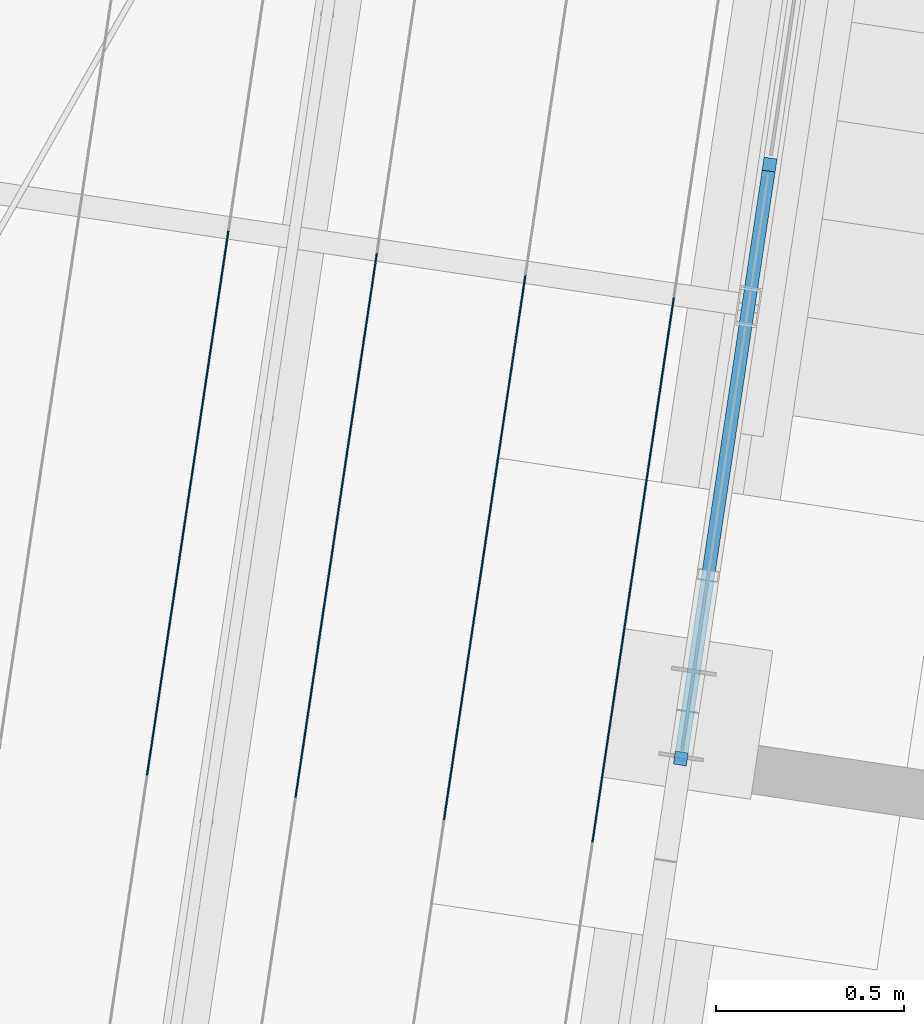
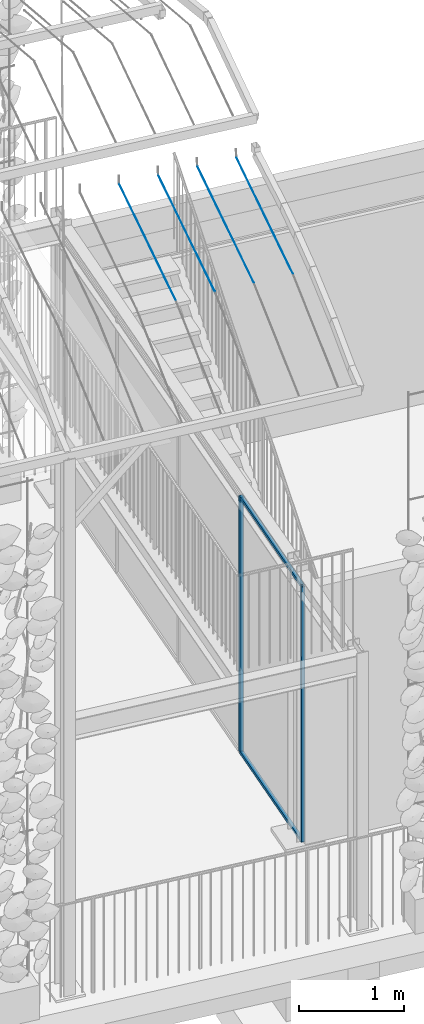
# One storey, part 25 of 142: 9 members, 1 element without a shape of its own.
"""IFC4 building model written with IfcOpenShell, lengths in metres."""

from ifc_helpers import new_model, si_unit, direction, frame, origin_with_axes, place, context, subcontext, project, spatial, rectangle, circle, extrude, material, material_profile, profile_set, profile_usage, type_object, element, aggregate, save


model = new_model("IFC4")

# Units and contexts
model_context = context("Model", 3, precision=1e-05, world=origin_with_axes(), true_north=direction((0.0, 1.0)))
body_context = subcontext(model_context, "Body", "Model", "MODEL_VIEW")
ifc_project = project(units=[si_unit("AREAUNIT", "SQUARE_METRE"), si_unit("VOLUMEUNIT", "CUBIC_METRE"), si_unit("LENGTHUNIT", "METRE")], contexts=[model_context])

# Site, building, storey
site_placement = place(None, origin_with_axes())
site = spatial("IfcSite", under=ifc_project, at=site_placement, Name="Lares · Rua das Mercês · artigo 4771")
building_placement = place(site_placement, frame((15.0, 9.7, 14.65), z_axis=(0.0, 0.0, 1.0), x_axis=(0.989015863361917, -0.147809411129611, 0.0)))
building = spatial("IfcBuilding", under=site, at=building_placement, Name="Casa Sobreposta")
storey_placement = place(building_placement, origin_with_axes())
storey = spatial("IfcBuildingStorey", under=building, at=storey_placement, Name="00 · Habitação e estacionamento", Elevation=14.65)

# Members
ifc_material_1 = material(Name="Aço pintado / Stahl lackiert", Category="steel")
ifc_material_profile_1 = material_profile(ifc_material_1, rectangle(XDim=0.035, YDim=0.035))
ifc_profile_set_1 = profile_set([ifc_material_profile_1], Name="R0.035")
ifc_profile_usage_1 = profile_usage(ifc_profile_set_1)
member_type_1 = type_object("IfcMemberType", Name="R0.035 / steel", PredefinedType="NOTDEFINED", material=ifc_profile_set_1)
member_1_placement = place(storey_placement, origin_with_axes())
element("IfcMember", 1, at=member_1_placement, inside=storey, type_object=member_type_1, material=ifc_profile_usage_1, Name="Fachada poente integralmente envidraçada · módulo 1 · montante", context=body_context, shape_type="SweptSolid", body=[
    extrude(rectangle(XDim=0.035, YDim=0.035), origin_with_axes(), (0.0, 0.0, 1.0), 2.968),
])
ifc_profile_usage_2 = profile_usage(ifc_profile_set_1)
member_2_placement = place(storey_placement, frame((0.0, 1.6, 0.0), z_axis=(0.0, 0.0, 1.0), x_axis=(1.0, 0.0, 0.0)))
element("IfcMember", 2, at=member_2_placement, inside=storey, type_object=member_type_1, material=ifc_profile_usage_2, context=body_context, shape_type="SweptSolid", body=[
    extrude(rectangle(XDim=0.035, YDim=0.035), origin_with_axes(), (0.0, 0.0, 1.0), 2.968),
])
ifc_profile_usage_3 = profile_usage(ifc_profile_set_1)
member_3_placement = place(storey_placement, frame((0.0, 0.0, 0.0), z_axis=(0.0, 1.0, 0.0), x_axis=(1.0, 0.0, 0.0)))
element("IfcMember", 3, at=member_3_placement, inside=storey, type_object=member_type_1, material=ifc_profile_usage_3, Name="Fachada poente integralmente envidraçada · módulo 1 · travessa", context=body_context, shape_type="SweptSolid", body=[
    extrude(rectangle(XDim=0.035, YDim=0.035), origin_with_axes(), (0.0, 0.0, 1.0), 1.6),
])
ifc_profile_usage_4 = profile_usage(ifc_profile_set_1)
member_4_placement = place(storey_placement, frame((0.0, 0.0, 2.968), z_axis=(0.0, 1.0, 0.0), x_axis=(1.0, 0.0, 0.0)))
element("IfcMember", 4, at=member_4_placement, inside=storey, type_object=member_type_1, material=ifc_profile_usage_4, Name="Fachada poente integralmente envidraçada · módulo 1 · travessa", context=body_context, shape_type="SweptSolid", body=[
    extrude(rectangle(XDim=0.035, YDim=0.035), origin_with_axes(), (0.0, 0.0, 1.0), 1.6),
])
ifc_profile_usage_5 = profile_usage(ifc_profile_set_1)
member_5_placement = place(storey_placement, frame((0.0, 1.6, 0.0), z_axis=(0.0, 0.0, 1.0), x_axis=(1.0, 0.0, 0.0)))
element("IfcMember", 5, at=member_5_placement, inside=storey, type_object=member_type_1, material=ifc_profile_usage_5, context=body_context, shape_type="SweptSolid", body=[
    extrude(rectangle(XDim=0.035, YDim=0.035), origin_with_axes(), (0.0, 0.0, 1.0), 2.968),
])

# Assembly, members
assembly_placement = place(storey_placement, origin_with_axes())
assembly = element("IfcElementAssembly", 6, at=assembly_placement, inside=storey, Name="Pérgola · prolongamento da estufa 6 m", ObjectType="PERGOLA_GREENHOUSE_EXTENSION", PredefinedType="USERDEFINED")
ifc_material_2 = material(Name="Aço galvanizado / Stahl verzinkt", Category="steel")
ifc_material_profile_2 = material_profile(ifc_material_2, circle(Radius=0.002))
ifc_profile_set_2 = profile_set([ifc_material_profile_2], Name="D0.004")
ifc_profile_usage_6 = profile_usage(ifc_profile_set_2)
member_type_2 = type_object("IfcMemberType", Name="D0.004 / galvanized", PredefinedType="NOTDEFINED", material=ifc_profile_set_2)
member_6_placement = place(assembly_placement, frame((-1.4, -0.256488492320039, 6.81570306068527), z_axis=(0.0, 0.96535496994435, 0.260940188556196), x_axis=(1.0, 0.0, 0.0)))
member_6 = element("IfcMember", 7, at=member_6_placement, type_object=member_type_2, material=ifc_profile_usage_6, Name="Pérgola · fio para trepadeiras", context=body_context, shape_type="SweptSolid", body=[
    extrude(circle(Radius=0.002), origin_with_axes(), (0.0, 0.0, 1.0), 1.52368621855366),
])
ifc_profile_usage_7 = profile_usage(ifc_profile_set_2)
member_7_placement = place(assembly_placement, frame((-0.999999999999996, -0.256488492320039, 6.81570306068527), z_axis=(0.0, 0.96535496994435, 0.260940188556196), x_axis=(1.0, 0.0, 0.0)))
member_7 = element("IfcMember", 8, at=member_7_placement, type_object=member_type_2, material=ifc_profile_usage_7, Name="Pérgola · fio para trepadeiras", context=body_context, shape_type="SweptSolid", body=[
    extrude(circle(Radius=0.002), origin_with_axes(), (0.0, 0.0, 1.0), 1.52368621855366),
])
ifc_profile_usage_8 = profile_usage(ifc_profile_set_2)
member_8_placement = place(assembly_placement, frame((-0.599999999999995, -0.256488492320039, 6.81570306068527), z_axis=(0.0, 0.96535496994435, 0.260940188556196), x_axis=(1.0, 0.0, 0.0)))
member_8 = element("IfcMember", 9, at=member_8_placement, type_object=member_type_2, material=ifc_profile_usage_8, Name="Pérgola · fio para trepadeiras", context=body_context, shape_type="SweptSolid", body=[
    extrude(circle(Radius=0.002), origin_with_axes(), (0.0, 0.0, 1.0), 1.52368621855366),
])
ifc_profile_usage_9 = profile_usage(ifc_profile_set_2)
member_9_placement = place(assembly_placement, frame((-0.199999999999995, -0.256488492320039, 6.81570306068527), z_axis=(0.0, 0.96535496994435, 0.260940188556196), x_axis=(1.0, 0.0, 0.0)))
member_9 = element("IfcMember", 10, at=member_9_placement, type_object=member_type_2, material=ifc_profile_usage_9, Name="Pérgola · fio para trepadeiras", context=body_context, shape_type="SweptSolid", body=[
    extrude(circle(Radius=0.002), origin_with_axes(), (0.0, 0.0, 1.0), 1.52368621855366),
])
aggregate(assembly, [member_6, member_7, member_8, member_9])

save(model, "model.ifc")
